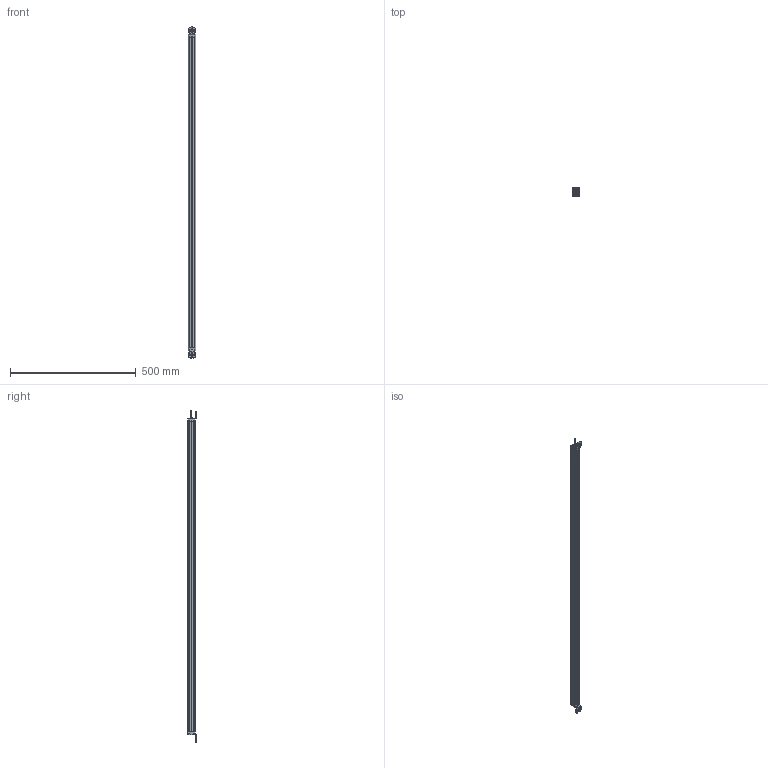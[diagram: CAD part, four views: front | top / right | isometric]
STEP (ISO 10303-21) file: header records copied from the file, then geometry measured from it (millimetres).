
FILE_DESCRIPTION (( 'STEP AP203' ), '1' );
FILE_NAME ('KT14-881218.STEP', '2022-08-25T07:35:34', ( '微软用户' ), ( '微软中国' ), 'SwSTEP 2.0', 'SolidWorks 2020', '' );
FILE_SCHEMA (( 'CONFIG_CONTROL_DESIGN' ));
Length unit declared in the file: millimetre
Products named in the file (4): KT14-881218; 光同步29X29 出线塑料盖1; 29x29倰第; 光同步29X29 出线塑料盖2
Assembly tree (3 placements, depth 2):
  KT14-881218
    29x29倰第
    光同步29X29 出线塑料盖1
    光同步29X29 出线塑料盖2
Bounding box: 30 x 34 x 1318 mm (x, y, z)
Volume: 930025.4 mm3; surface area: 187278.8 mm2
Topology: 4 solids, 12 shells, 661 faces, 1760 edges, 1138 vertices
Faces by surface type: cylinder 299, plane 269, bspline 54, cone 39
Entity records: 30323 total; most frequent: CARTESIAN_POINT 13492, ORIENTED_EDGE 3510, DIRECTION 3352, EDGE_CURVE 1758, AXIS2_PLACEMENT_3D 1220, VERTEX_POINT 1138, LINE 912, VECTOR 912
